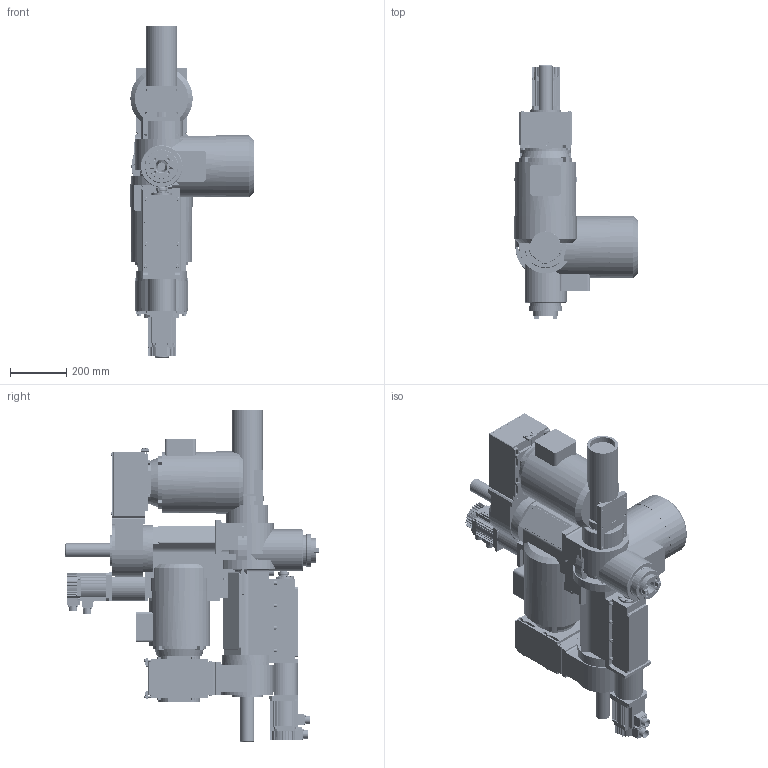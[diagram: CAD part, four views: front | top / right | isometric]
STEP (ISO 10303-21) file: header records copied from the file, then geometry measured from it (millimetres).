
FILE_DESCRIPTION( ( 'STEP AP203' ), '1' );
FILE_NAME( 'C:/Documents and Settings/Saverio/Desktop/disegni ironcad/unità transfer/FMT440CN/FMT 440 CN_A.stp', '2013-12-10T11:17:30', ( ' ' ), ( ' ' ), 'XStep 1.0', ' ', ' ' );
FILE_SCHEMA( ( 'CONFIG_CONTROL_DESIGN' ) );
Length unit declared in the file: metre
Products named in the file (55): Assem1; Assem2; Assem3; 1; 2; 3; 4; 5; 6; 7; 8; 9; 10; 11; 12; 13; 14; 15; 16; 17; 18; 19; 20; 21; 22; 23; 24; 25; 26; 27; 28; 29; 30; 31; 32; 33; 34; 35; 36; 37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
Bounding box: 439 x 903 x 1183 mm (x, y, z)
Volume: 112281223.9 mm3; surface area: 7013786.8 mm2
Topology: 156 solids, 156 shells, 4167 faces, 9519 edges, 6027 vertices
Faces by surface type: plane 2547, cylinder 888, cone 684, torus 30, bspline 18
Full cylindrical faces by diameter (mm): 5 x33, 5.5 x36, 6 x42, 6.5 x24, 6.637 x12, 6.647 x12, 7 x12, 8 x27, 8.366 x3, 8.5 x36, 9.87 x9, 10 x12, 10.25 x12, 10.5 x6, 12.85 x24, 14 x24, 23.5 x3, 24 x6, 25 x9, 25.3 x3, 27 x3, 28 x3, 28.557 x3, 30 x3, 31.4 x3, 32 x3, 33 x3, 36 x3, 36.4 x3, 38 x3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
Entity records: 39921 total; most frequent: CARTESIAN_POINT 7522, DIRECTION 6344, ORIENTED_EDGE 5550, EDGE_CURVE 2775, AXIS2_PLACEMENT_3D 2324, VERTEX_POINT 1927, EDGE_LOOP 1909, LINE 1696
